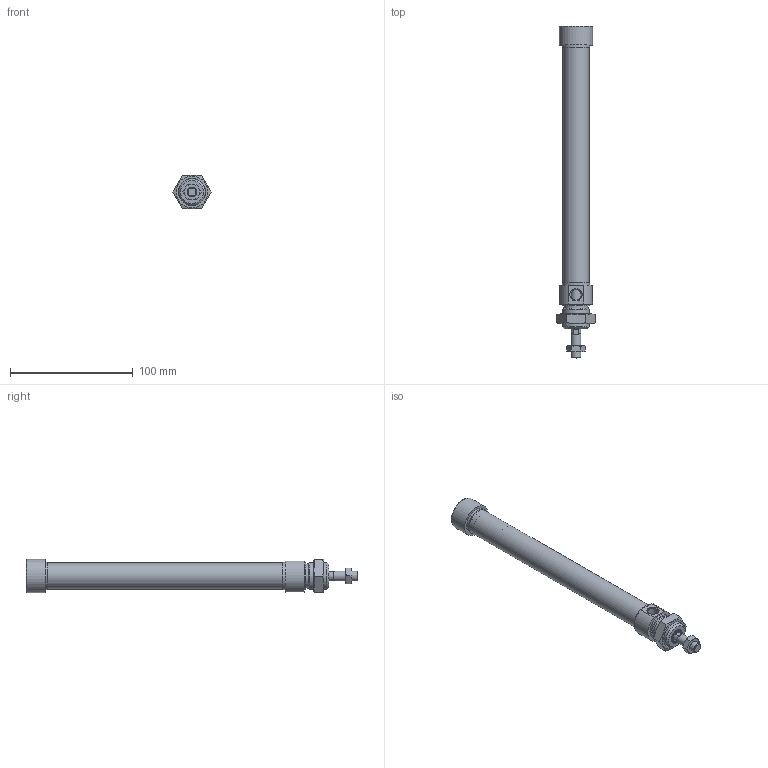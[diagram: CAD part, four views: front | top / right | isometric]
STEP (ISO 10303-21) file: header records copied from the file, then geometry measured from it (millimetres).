
FILE_DESCRIPTION(/* description */ ('Unknown'),/* implementation_level */ '2;1');
FILE_NAME(/* name */ 'RIMA 20_160',/* time_stamp */ '2024-08-30T13:04:30+02:00',/* author */ ('Unknown'),/* organization */ ('Unknown'),/* preprocessor_version */ 'ST-DEVELOPER v16.7',/* originating_system */ 'Solid Edge',/* authorisation */ 'Unknown');
FILE_SCHEMA (('AUTOMOTIVE_DESIGN {1 0 10303 214 3 1 1}'));
Length unit declared in the file: millimetre
Products named in the file (7): RIMA 20_160; Profilrohr; Kolbenstange; Kit_1; Kit_2; Mutter_1; Mutter_2
Assembly tree (6 placements, depth 2):
  RIMA 20_160
    Profilrohr
    Kolbenstange
    Kit_1
    Kit_2
    Mutter_1
    Mutter_2
Bounding box: 31.18 x 271 x 27 mm (x, y, z)
Volume: 56340.8 mm3; surface area: 43637.4 mm2
Topology: 6 solids, 6 shells, 121 faces, 240 edges, 148 vertices
Faces by surface type: plane 47, cone 39, cylinder 28, torus 7
Full cylindrical faces by diameter (mm): 1.7 x1, 6.647 x1, 8 x2, 8.5 x1, 8.56 x2, 8.566 x2, 9.1 x1, 12 x1, 12.1 x1, 14.1 x1, 14.2 x1, 17.9 x1, 19.7 x1, 20 x3, 20.376 x1, 21.27 x1, 22 x2, 22.2 x2, 27 x1
Entity records: 3667 total; most frequent: CARTESIAN_POINT 540, DIRECTION 488, ORIENTED_EDGE 340, AXIS2_PLACEMENT_3D 230, EDGE_LOOP 204, FACE_BOUND 204, EDGE_CURVE 170, VERTEX_POINT 136
